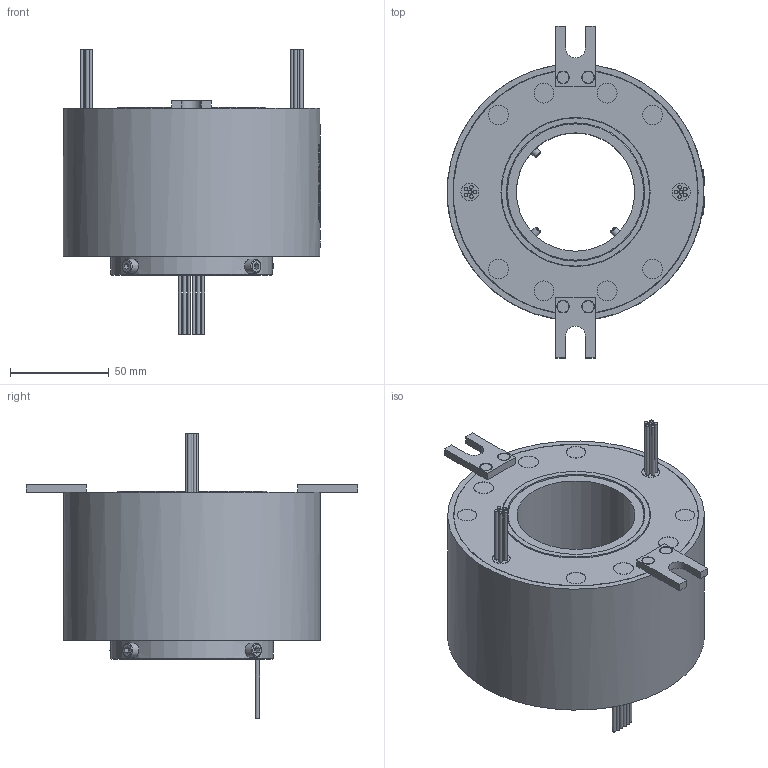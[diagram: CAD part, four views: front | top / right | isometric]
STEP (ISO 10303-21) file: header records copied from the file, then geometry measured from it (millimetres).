
FILE_DESCRIPTION(/* description */ (''),/* implementation_level */ '2;1');
FILE_NAME(/* name */ 'HD60130-1210-3D模型.stp',/* time_stamp */ '2025-09-04T13:39:59+08:00',/* author */ (''),/* organization */ (''),/* preprocessor_version */ 'ST-DEVELOPER v16.7',/* originating_system */ 'SIEMENS PLM Software NX 12.0',/* authorisation */ '');
FILE_SCHEMA (('AUTOMOTIVE_DESIGN { 1 0 10303 214 3 1 1 1 }'));
Length unit declared in the file: millimetre
Products named in the file (1): Admi82E4D60F1jls
Bounding box: 130.45 x 168 x 144.2 mm (x, y, z)
Volume: 812459.3 mm3; surface area: 78370.2 mm2
Topology: 1 solids, 5 shells, 776 faces, 2016 edges, 1341 vertices
Faces by surface type: plane 334, extrusion 313, cylinder 81, bspline 30, cone 14, torus 4
Full cylindrical faces by diameter (mm): 1.8 x18, 3 x4, 3.4 x1, 3.5 x4, 4 x7, 6 x4, 7 x4, 9 x2, 10 x8, 59.9 x1, 70 x1, 75 x1, 75.5 x1, 82 x1, 123.8 x2, 124 x2, 130 x1
Entity records: 29308 total; most frequent: CARTESIAN_POINT 13144, ORIENTED_EDGE 3816, DIRECTION 2065, EDGE_CURVE 1908, B_SPLINE_CURVE_WITH_KNOTS 1645, VERTEX_POINT 1313, EDGE_LOOP 961, ADVANCED_FACE 776
